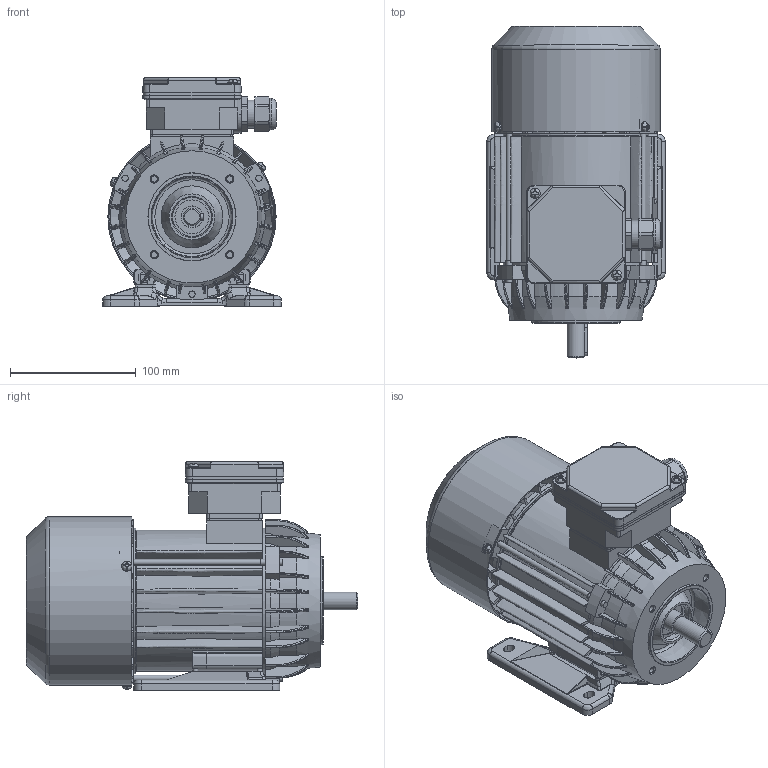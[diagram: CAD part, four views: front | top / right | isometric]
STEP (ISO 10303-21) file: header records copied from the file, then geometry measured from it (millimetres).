
FILE_DESCRIPTION( ( 'Unknown' ), '1' );
FILE_NAME( 'G:/Poczta Tk-1/STP/w.m.71/2SIE71/2SIEL71-.C2.stp', 'Unknown', ( 'K. Szlosek' ), ( 'BESEL S.A.' ), 'PSStep 17.0.49', 'Unknown', ' ' );
FILE_SCHEMA( ( 'AUTOMOTIVE_DESIGN { 1 0 10303 214 1 1 1 1 }' ) );
Length unit declared in the file: millimetre
Products named in the file (30): skrznka zaciskowa trójfazowa ; K4-2820 Uszczelka nr 2 Sh71,80; Dławnica M20x1,5; K2-0859 Podstawa skrzynki 6-cio zaciskowej; K2-0860 Pokrywka skrzynki zaciskowej; Assem1; K3-2975 Osłona przewietrznika Sh71-.B,C; K4-2320 Uszczelka nr 1 Sh71,80; K1-1194 Kadłub z zamkami Sh71-.C; K3-6469 Tarcza łożyskowa P S(E,M)h71-B,C; Wpust A5x5x25; Wkręt samogwintujący M4x8; Nitokołek A 2x6; k3-4489 Wał SKh71 x-2C1; Wkręt samogwintujący M4x16; K3-3984 Przewietrznik Sh71; Łożysko 6203; Śruba ściągająca E_M5x130; Tabliczka znamionowa 32x44; K1-1245 Tarcza kołnierzowa B14_2 w.m. 71; K1-0448 Łapa Sh71-.. 
Assembly tree (45 placements, depth 3):
  Assem1
    K3-2975 Osłona przewietrznika Sh71-.B,C
    K4-2320 Uszczelka nr 1 Sh71,80
    K1-1194 Kadłub z zamkami Sh71-.C
    K3-6469 Tarcza łożyskowa P S(E,M)h71-B,C
    Wpust A5x5x25
    Wkręt samogwintujący M4x8  x3
    Nitokołek A 2x6  x2
    k3-4489 Wał SKh71 x-2C1
    Wkręt samogwintujący M4x16  x2
    K3-3984 Przewietrznik Sh71
    Łożysko 6203  x2
    Łożysko 6203  x2
    Łożysko 6203  x2
    Łożysko 6203  x2
    Łożysko 6203  x2
    Łożysko 6203  x2
    Łożysko 6203  x2
    Łożysko 6203  x2
    Łożysko 6203  x2
    Łożysko 6203  x2
    Śruba ściągająca E_M5x130  x3
    Tabliczka znamionowa 32x44
    K1-1245 Tarcza kołnierzowa B14_2 w.m. 71
    K1-0448 Łapa Sh71-.. 
    skrznka zaciskowa trójfazowa 
      K4-2820 Uszczelka nr 2 Sh71,80
      Dławnica M20x1,5
      K2-0859 Podstawa skrzynki 6-cio zaciskowej
      K2-0860 Pokrywka skrzynki zaciskowej
Bounding box: 141.93 x 263.5 x 181.5 mm (x, y, z)
Volume: 721376.3 mm3; surface area: 477877.6 mm2
Topology: 44 solids, 60 shells, 2750 faces, 7481 edges, 4788 vertices
Faces by surface type: plane 1080, cylinder 790, bspline 447, torus 198, cone 193, sphere 42
Full cylindrical faces by diameter (mm): 2 x2, 2.4 x2, 3.7 x7, 3.8 x4, 4 x5, 4.5 x1, 4.6 x3, 4.8 x4, 4.917 x4, 5 x10, 5.5 x3, 5.8 x4, 7 x1, 8 x9, 14 x1, 15.9 x1, 16.1 x1, 16.5 x1, 17 x4, 17.4 x2, 18.376 x1, 18.38 x1, 20 x1, 22 x2, 22.3 x1, 22.5 x1, 23.1 x1, 24 x1, 24.498 x4, 25 x1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
Entity records: 168807 total; most frequent: CARTESIAN_POINT 86245, ORIENTED_EDGE 13472, DIRECTION 11785, EDGE_CURVE 6736, AXIS2_PLACEMENT_3D 4492, VERTEX_POINT 4456, EDGE_LOOP 2997, LINE 2801
